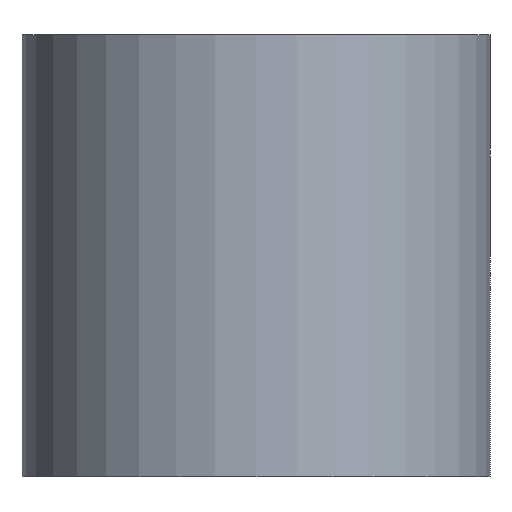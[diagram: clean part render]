
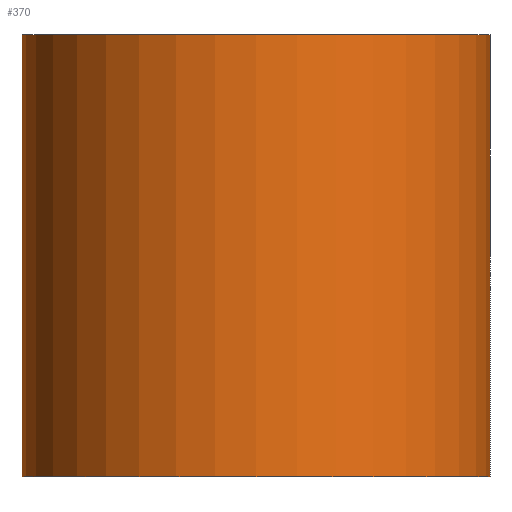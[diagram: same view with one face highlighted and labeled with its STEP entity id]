
A CAD part, front view. The second image highlights one B-rep face of the part: STEP entity #370.
In plain terms, the highlighted cylindrical face has radius 9 mm (diameter 18 mm), a full revolution.
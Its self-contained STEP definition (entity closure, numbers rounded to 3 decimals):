
#266=CARTESIAN_POINT('',(0.0,0.0,0.0));
#267=DIRECTION('',(0.0,0.0,1.0));
#268=DIRECTION('',(-1.0,0.0,0.0));
#269=AXIS2_PLACEMENT_3D('',#266,#267,#268);
#270=CYLINDRICAL_SURFACE('',#269,9.0);
#271=CARTESIAN_POINT('',(9.0,0.,8.5));
#272=VERTEX_POINT('',#271);
#273=CARTESIAN_POINT('',(0.0,0.0,8.5));
#274=DIRECTION('',(0.0,0.0,-1.0));
#275=DIRECTION('',(-1.0,0.0,0.0));
#276=AXIS2_PLACEMENT_3D('',#273,#274,#275);
#277=CIRCLE('',#276,9.0);
#278=EDGE_CURVE('',#272,#272,#277,.T.);
#279=ORIENTED_EDGE('',*,*,#278,.T.);
#280=EDGE_LOOP('',(#279));
#281=FACE_OUTER_BOUND('',#280,.T.);
#282=CARTESIAN_POINT('',(9.0,0.,-8.5));
#283=VERTEX_POINT('',#282);
#284=CARTESIAN_POINT('',(0.0,0.0,-8.5));
#285=DIRECTION('',(0.0,0.0,1.0));
#286=DIRECTION('',(-1.0,0.0,0.0));
#287=AXIS2_PLACEMENT_3D('',#284,#285,#286);
#288=CIRCLE('',#287,9.0);
#289=EDGE_CURVE('',#283,#283,#288,.T.);
#290=ORIENTED_EDGE('',*,*,#289,.T.);
#291=EDGE_LOOP('',(#290));
#292=FACE_BOUND('',#291,.T.);
#293=CARTESIAN_POINT('',(-4.0,8.062,0.0));
#294=VERTEX_POINT('',#293);
#295=CARTESIAN_POINT('',(-4.0,8.062,0.0));
#296=CARTESIAN_POINT('',(-4.0,8.062,0.449));
#297=CARTESIAN_POINT('',(-3.921,8.103,0.919));
#298=CARTESIAN_POINT('',(-3.762,8.176,1.36));
#299=CARTESIAN_POINT('',(-3.621,8.241,1.749));
#300=CARTESIAN_POINT('',(-3.419,8.329,2.115));
#301=CARTESIAN_POINT('',(-3.175,8.421,2.433));
#302=CARTESIAN_POINT('',(-3.051,8.468,2.595));
#303=CARTESIAN_POINT('',(-2.918,8.515,2.743));
#304=CARTESIAN_POINT('',(-2.775,8.561,2.88));
#305=CARTESIAN_POINT('',(-2.441,8.67,3.203));
#306=CARTESIAN_POINT('',(-2.027,8.781,3.484));
#307=CARTESIAN_POINT('',(-1.572,8.862,3.678));
#308=CARTESIAN_POINT('',(-1.234,8.922,3.823));
#309=CARTESIAN_POINT('',(-0.874,8.965,3.92));
#310=CARTESIAN_POINT('',(-0.515,8.985,3.967));
#311=CARTESIAN_POINT('',(-0.188,9.004,4.009));
#312=CARTESIAN_POINT('',(0.131,9.005,4.011));
#313=CARTESIAN_POINT('',(0.458,8.988,3.974));
#314=CARTESIAN_POINT('',(0.939,8.964,3.918));
#315=CARTESIAN_POINT('',(1.425,8.898,3.77));
#316=CARTESIAN_POINT('',(1.859,8.806,3.542));
#317=CARTESIAN_POINT('',(2.203,8.733,3.361));
#318=CARTESIAN_POINT('',(2.515,8.646,3.132));
#319=CARTESIAN_POINT('',(2.778,8.56,2.878));
#320=CARTESIAN_POINT('',(2.927,8.512,2.734));
#321=CARTESIAN_POINT('',(3.066,8.463,2.578));
#322=CARTESIAN_POINT('',(3.195,8.414,2.406));
#323=CARTESIAN_POINT('',(3.487,8.303,2.018));
#324=CARTESIAN_POINT('',(3.717,8.198,1.561));
#325=CARTESIAN_POINT('',(3.852,8.134,1.079));
#326=CARTESIAN_POINT('',(3.948,8.089,0.735));
#327=CARTESIAN_POINT('',(3.997,8.064,0.379));
#328=CARTESIAN_POINT('',(4.,8.062,0.036));
#329=CARTESIAN_POINT('',(4.002,8.061,-0.196));
#330=CARTESIAN_POINT('',(3.984,8.07,-0.433));
#331=CARTESIAN_POINT('',(3.944,8.09,-0.669));
#332=CARTESIAN_POINT('',(3.86,8.131,-1.162));
#333=CARTESIAN_POINT('',(3.679,8.218,-1.647));
#334=CARTESIAN_POINT('',(3.421,8.324,-2.073));
#335=CARTESIAN_POINT('',(3.254,8.393,-2.349));
#336=CARTESIAN_POINT('',(3.055,8.469,-2.6));
#337=CARTESIAN_POINT('',(2.84,8.54,-2.817));
#338=CARTESIAN_POINT('',(2.703,8.586,-2.955));
#339=CARTESIAN_POINT('',(2.554,8.632,-3.085));
#340=CARTESIAN_POINT('',(2.392,8.676,-3.206));
#341=CARTESIAN_POINT('',(2.01,8.781,-3.491));
#342=CARTESIAN_POINT('',(1.562,8.876,-3.715));
#343=CARTESIAN_POINT('',(1.091,8.934,-3.848));
#344=CARTESIAN_POINT('',(0.799,8.969,-3.931));
#345=CARTESIAN_POINT('',(0.499,8.991,-3.98));
#346=CARTESIAN_POINT('',(0.205,8.998,-3.995));
#347=CARTESIAN_POINT('',(-0.011,9.003,-4.006));
#348=CARTESIAN_POINT('',(-0.224,9.,-4.));
#349=CARTESIAN_POINT('',(-0.442,8.989,-3.975));
#350=CARTESIAN_POINT('',(-0.926,8.965,-3.922));
#351=CARTESIAN_POINT('',(-1.414,8.899,-3.774));
#352=CARTESIAN_POINT('',(-1.851,8.808,-3.546));
#353=CARTESIAN_POINT('',(-2.097,8.756,-3.418));
#354=CARTESIAN_POINT('',(-2.327,8.697,-3.264));
#355=CARTESIAN_POINT('',(-2.535,8.636,-3.094));
#356=CARTESIAN_POINT('',(-2.743,8.574,-2.924));
#357=CARTESIAN_POINT('',(-2.926,8.513,-2.74));
#358=CARTESIAN_POINT('',(-3.097,8.45,-2.532));
#359=CARTESIAN_POINT('',(-3.396,8.341,-2.166));
#360=CARTESIAN_POINT('',(-3.64,8.233,-1.73));
#361=CARTESIAN_POINT('',(-3.795,8.161,-1.264));
#362=CARTESIAN_POINT('',(-3.932,8.097,-0.852));
#363=CARTESIAN_POINT('',(-4.0,8.062,-0.416));
#364=CARTESIAN_POINT('',(-4.0,8.062,0.));
#365=B_SPLINE_CURVE_WITH_KNOTS('',3,(#295,#296,#297,#298,#299,#300,#301,#302,#303,#304,#305,#306,#307,#308,#309,#310,#311,#312,#313,#314,#315,#316,#317,#318,#319,#320,#321,#322,#323,#324,#325,#326,#327,#328,#329,#330,#331,#332,#333,#334,#335,#336,#337,#338,#339,#340,#341,#342,#343,#344,#345,#346,#347,#348,#349,#350,#351,#352,#353,#354,#355,#356,#357,#358,#359,#360,#361,#362,#363,#364),.UNSPECIFIED.,.T.,.U.,(4,3,3,3,3,3,3,3,3,3,3,3,3,3,3,3,3,3,3,3,3,3,3,4),(0.0,0.135,0.253,0.314,0.456,0.561,0.657,0.799,0.911,0.974,1.118,1.221,1.29,1.435,1.529,1.589,1.729,1.816,1.88,2.022,2.102,2.183,2.324,2.449),.UNSPECIFIED.);
#366=EDGE_CURVE('',#294,#294,#365,.T.);
#367=ORIENTED_EDGE('',*,*,#366,.F.);
#368=EDGE_LOOP('',(#367));
#369=FACE_BOUND('',#368,.T.);
#370=ADVANCED_FACE('',(#281,#292,#369),#270,.T.);
